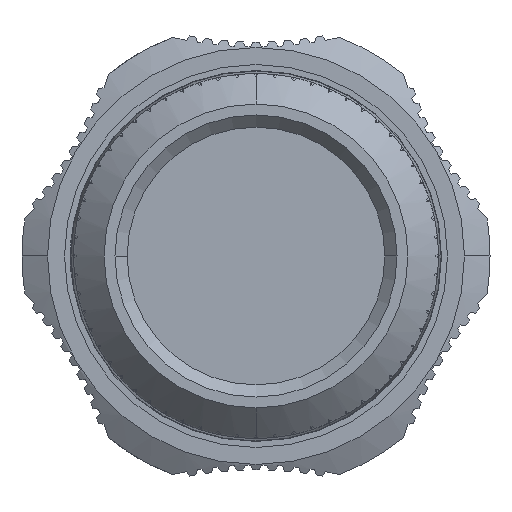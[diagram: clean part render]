
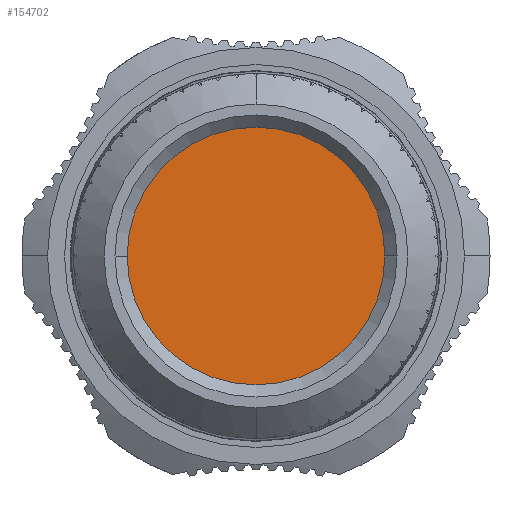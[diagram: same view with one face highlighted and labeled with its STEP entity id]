
A CAD part, front view. The second image highlights one B-rep face of the part: STEP entity #154702.
In plain terms, the highlighted planar face has unit normal (0, -1, 0).
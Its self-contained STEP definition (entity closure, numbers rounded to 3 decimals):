
#44948=CARTESIAN_POINT('',(19.25,6.127,
-19.25));
#44949=DIRECTION('',(0.,1.,0.));
#44950=DIRECTION('',(1.,0.,0.));
#44951=AXIS2_PLACEMENT_3D('',#44948,#44949,#44950);
#44953=CARTESIAN_POINT('',(19.25,6.127,
-19.25));
#44954=DIRECTION('',(0.,1.,0.));
#44955=DIRECTION('',(-1.,0.,0.));
#44956=AXIS2_PLACEMENT_3D('',#44953,#44954,#44955);
#57941=CARTESIAN_POINT('',(8.65,6.127,
-19.25));
#57942=VERTEX_POINT('',#57941);
#57943=CARTESIAN_POINT('',(29.85,6.127,
-19.25));
#57944=VERTEX_POINT('',#57943);
#154693=CARTESIAN_POINT('',(19.25,6.127,
-19.25));
#154694=DIRECTION('',(0.,1.,0.));
#154695=DIRECTION('',(-1.,0.,0.));
#154696=AXIS2_PLACEMENT_3D('',#154693,#154694,#154695);
#154697=PLANE('',#154696);
#154698=ORIENTED_EDGE('',*,*,#154673,.T.);
#154699=ORIENTED_EDGE('',*,*,#154687,.T.);
#154700=EDGE_LOOP('',(#154698,#154699));
#154701=FACE_OUTER_BOUND('',#154700,.F.);
#154702=ADVANCED_FACE('',(#154701),#154697,.F.);
#44952=CIRCLE('',#44951,10.6);
#44957=CIRCLE('',#44956,10.6);
#154673=EDGE_CURVE('',#57944,#57942,#44952,.T.);
#154687=EDGE_CURVE('',#57942,#57944,#44957,.T.);
